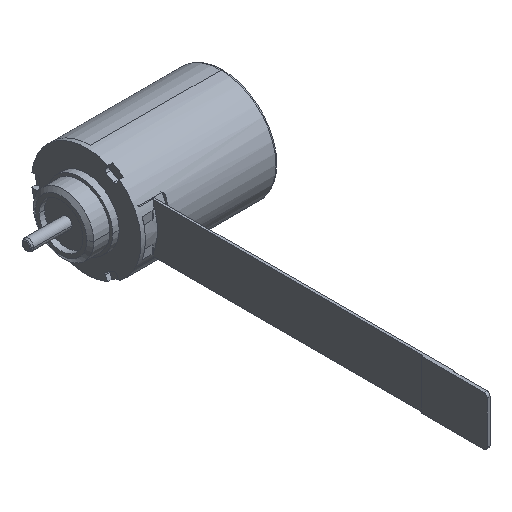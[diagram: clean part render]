
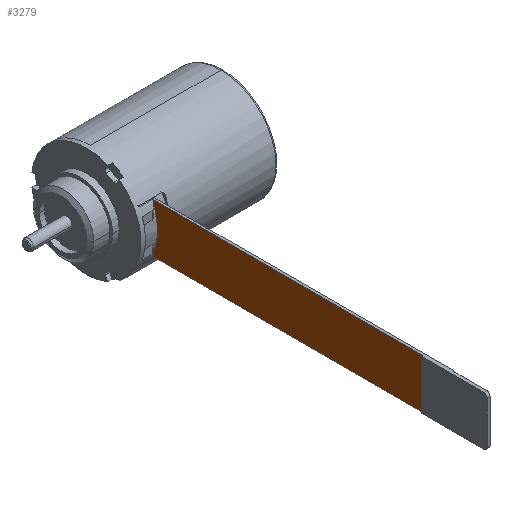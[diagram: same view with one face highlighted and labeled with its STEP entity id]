
A CAD part, isometric view. The second image highlights one B-rep face of the part: STEP entity #3279.
In plain terms, the highlighted planar face has unit normal (-1, 0, 0).
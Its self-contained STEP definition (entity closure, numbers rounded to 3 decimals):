
#813=CARTESIAN_POINT('',(1.7,-4.3,2.133));
#837=DIRECTION('',(0.,0.,1.));
#838=VECTOR('',#837,0.117);
#839=CARTESIAN_POINT('',(1.7,-4.3,2.133));
#840=LINE('',#839,#838);
#865=CARTESIAN_POINT('',(1.7,-4.3,-2.133));
#870=DIRECTION('',(0.,0.,1.));
#871=VECTOR('',#870,0.117);
#872=CARTESIAN_POINT('',(1.7,-4.3,-2.25));
#873=LINE('',#872,#871);
#986=CARTESIAN_POINT('',(1.7,0.,0.));
#987=DIRECTION('',(-1.,0.,0.));
#988=DIRECTION('',(0.,-0.896,-0.444));
#989=AXIS2_PLACEMENT_3D('',#986,#987,#988);
#994=DIRECTION('',(0.,1.,0.));
#995=VECTOR('',#994,24.7);
#996=CARTESIAN_POINT('',(1.7,-29.,2.25));
#997=LINE('',#996,#995);
#1001=DIRECTION('',(0.,0.,1.));
#1002=VECTOR('',#1001,4.5);
#1003=CARTESIAN_POINT('',(1.7,-29.,-2.25));
#1004=LINE('',#1003,#1002);
#1008=DIRECTION('',(0.,-1.,0.));
#1009=VECTOR('',#1008,24.7);
#1010=CARTESIAN_POINT('',(1.7,-4.3,-2.25));
#1011=LINE('',#1010,#1009);
#2310=CARTESIAN_POINT('',(1.7,-29.,-2.25));
#2311=VERTEX_POINT('',#2310);
#2312=CARTESIAN_POINT('',(1.7,-29.,2.25));
#2313=VERTEX_POINT('',#2312);
#2458=CARTESIAN_POINT('',(1.7,-4.3,-2.25));
#2459=VERTEX_POINT('',#2458);
#2460=CARTESIAN_POINT('',(1.7,-4.3,2.25));
#2461=VERTEX_POINT('',#2460);
#2536=VERTEX_POINT('',#813);
#2537=VERTEX_POINT('',#865);
#3264=CARTESIAN_POINT('',(1.7,0.,0.));
#3265=DIRECTION('',(-1.,0.,0.));
#3266=DIRECTION('',(0.,-1.,0.));
#3267=AXIS2_PLACEMENT_3D('',#3264,#3265,#3266);
#3268=PLANE('',#3267);
#3269=ORIENTED_EDGE('',*,*,#3082,.T.);
#3270=ORIENTED_EDGE('',*,*,#3163,.T.);
#3272=ORIENTED_EDGE('',*,*,#3271,.F.);
#3274=ORIENTED_EDGE('',*,*,#3273,.F.);
#3275=ORIENTED_EDGE('',*,*,#3247,.F.);
#3276=ORIENTED_EDGE('',*,*,#3174,.T.);
#3277=EDGE_LOOP('',(#3269,#3270,#3272,#3274,#3275,#3276));
#3278=FACE_OUTER_BOUND('',#3277,.F.);
#3279=ADVANCED_FACE('',(#3278),#3268,.T.);
#990=CIRCLE('',#989,4.8);
#3082=EDGE_CURVE('',#2537,#2536,#990,.T.);
#3163=EDGE_CURVE('',#2536,#2461,#840,.T.);
#3174=EDGE_CURVE('',#2459,#2537,#873,.T.);
#3247=EDGE_CURVE('',#2459,#2311,#1011,.T.);
#3271=EDGE_CURVE('',#2313,#2461,#997,.T.);
#3273=EDGE_CURVE('',#2311,#2313,#1004,.T.);
